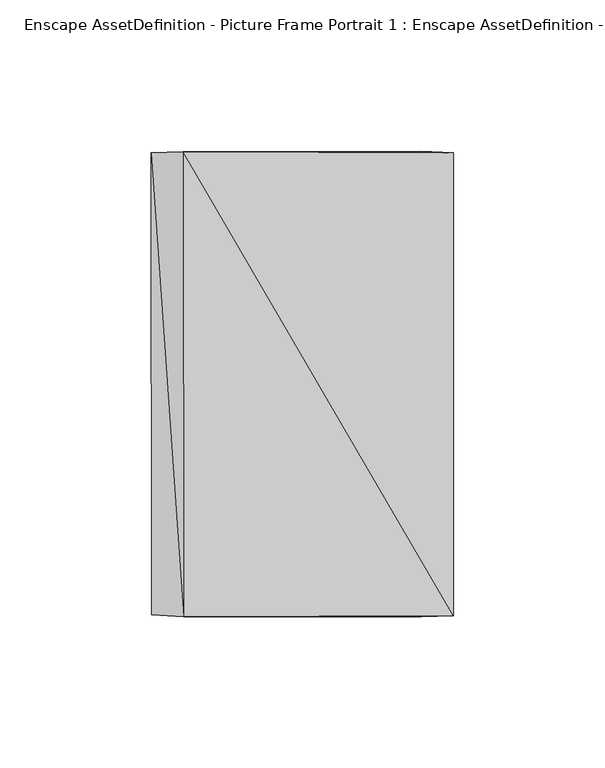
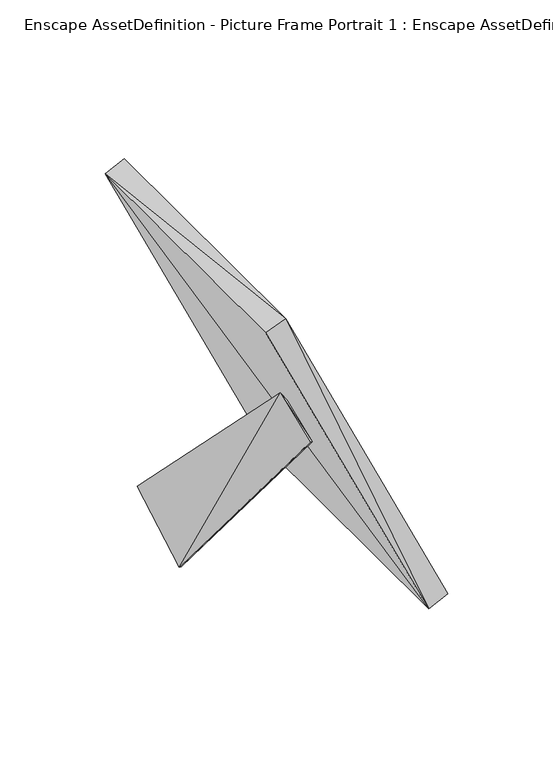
"""IFC4 building model written with IfcOpenShell, lengths in millimetres: geographic element geometry, Enscape AssetDefinition - Picture Frame Portrait 1 : Enscape AssetDefinition - Picture Frame Portrait 1."""

from ifc_helpers import new_model, si_unit, origin, place, context, project, spatial, faceted_brep, source, transform, mapped, element, save


def enscape_assetdefinition_picture_frame_portrait_1_enscape_684294eb(model_context):
    return source(origin(), model_context, "Body", "Brep", [
        faceted_brep([(-14.7601375, 76.501891, 192.171216), (74.668929, -76.8877789, 0.6753004), (-14.6636665, -76.3089433, 192.2676861), (74.5724589, 76.9842491, 0.578829), (85.2807984, 76.501891, 5.3059319), (85.2807984, -76.501891, 5.3059319), (-3.9553312, -76.8877789, 196.8983114), (-4.2447452, 76.8877789, 196.8018264)], [[[0, 1, 2]], [[3, 1, 0]], [[4, 1, 3]], [[5, 1, 4]], [[2, 1, 6]], [[5, 6, 1]], [[2, 6, 0]], [[0, 6, 7]], [[3, 0, 7]], [[7, 4, 3]], [[4, 7, 5]], [[5, 7, 6]]]),
        faceted_brep([(20.2590115, -29.6167471, 116.6340262), (-10.7083349, 12.9271792, 0.2894145), (18.3295831, -61.6452843, 107.9515964), (-6.270647, 60.9699786, 16.7860389), (-9.7436197, 12.9271792, 0.2894145), (-5.3059319, 60.9699786, 16.7860389), (19.2942973, -61.6452843, 107.9515964), (21.2237276, -29.6167471, 116.6340262)], [[[0, 1, 2]], [[3, 1, 0]], [[4, 2, 1]], [[5, 1, 3]], [[4, 1, 5]], [[6, 2, 4]], [[6, 0, 2]], [[7, 0, 6]], [[7, 3, 0]], [[5, 3, 7]], [[7, 4, 5]], [[6, 4, 7]]]),
    ])


if __name__ == "__main__":
    model = new_model("IFC4")
    model_context = context("Model", 3, world=origin())
    ifc_project = project(units=[si_unit("LENGTHUNIT", "METRE", prefix="MILLI")], contexts=[model_context])
    site = spatial("IfcSite", under=ifc_project)
    building = spatial("IfcBuilding", under=site)
    placement = place(None, origin())
    enscape_assetdefinition_picture_frame_portrait_1_enscape_shape = enscape_assetdefinition_picture_frame_portrait_1_enscape_684294eb(model_context)
    element("IfcGeographicElement", 1, ObjectType="Enscape AssetDefinition - Picture Frame Portrait 1 : Enscape AssetDefinition - Picture Frame Portrait 1", at=placement, inside=building, context=model_context, shape_type="MappedRepresentation", body=[
        mapped(enscape_assetdefinition_picture_frame_portrait_1_enscape_shape, transform((0.0, 0.0, 0.0), x_axis=(1.0, 0.0, 0.0), y_axis=(0.0, 1.0, 0.0), z_axis=(0.0, 0.0, 1.0))),
    ])
    save(model, "model.ifc")
